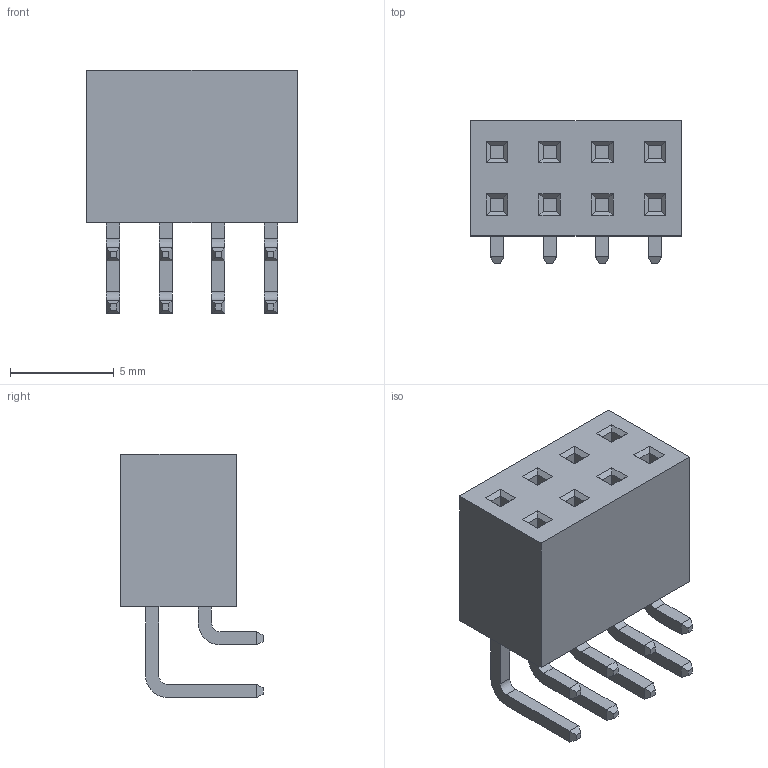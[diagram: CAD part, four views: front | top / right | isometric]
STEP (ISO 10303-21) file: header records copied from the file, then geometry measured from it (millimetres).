
FILE_DESCRIPTION (( 'STEP AP214' ), '1' );
FILE_NAME ( 'HDRRA8W64P254_4X2_1016X736H556P.STEP', '2014-04-11T12:31:22', ( '' ), ( '' ), 'FPX Expert 2013', 'PCB Libraries', '' );
FILE_SCHEMA (( 'AUTOMOTIVE_DESIGN' ));
Length unit declared in the file: millimetre
Products named in the file (1): HDRRA8W64P254_4X2_1016X736H556P
Bounding box: 10.16 x 6.86 x 11.74 mm (x, y, z)
Volume: 420.3 mm3; surface area: 579.6 mm2
Topology: 9 solids, 9 shells, 190 faces, 428 edges, 264 vertices
Faces by surface type: plane 174, cylinder 16
Entity records: 5589 total; most frequent: CARTESIAN_POINT 883, ORIENTED_EDGE 856, DIRECTION 842, EDGE_CURVE 428, VECTOR 396, LINE 396, VERTEX_POINT 264, AXIS2_PLACEMENT_3D 223
